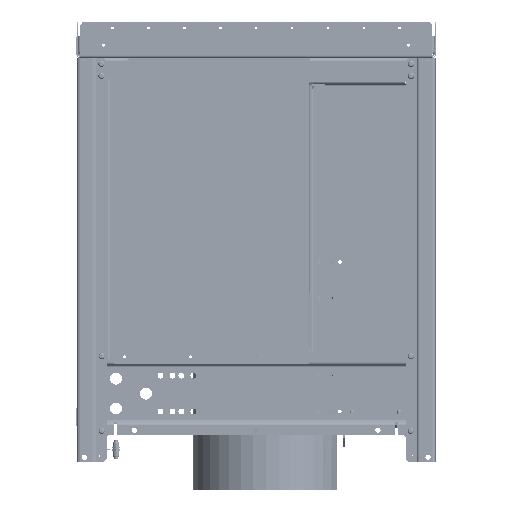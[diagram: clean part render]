
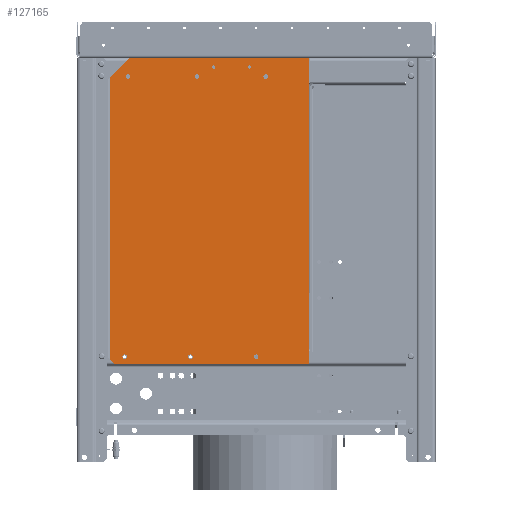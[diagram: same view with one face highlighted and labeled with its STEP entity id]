
A CAD part, left-side view. The second image highlights one B-rep face of the part: STEP entity #127165.
In plain terms, the highlighted planar face has unit normal (-1, 0, 0) as drawn and (0, 0, -1) by its records, which use the part's own axes.
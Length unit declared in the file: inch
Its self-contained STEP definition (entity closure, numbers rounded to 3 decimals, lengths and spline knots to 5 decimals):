
#126268=CARTESIAN_POINT('',(-11.25,17.34,-0.0396));
#126269=DIRECTION('',(0.,0.,-1.));
#126270=DIRECTION('',(-1.,0.,0.));
#126271=AXIS2_PLACEMENT_3D('',#126268,#126269,#126270);
#126273=CARTESIAN_POINT('',(-11.25,17.34,-0.0396));
#126274=DIRECTION('',(0.,0.,-1.));
#126275=DIRECTION('',(1.,0.,0.));
#126276=AXIS2_PLACEMENT_3D('',#126273,#126274,#126275);
#126278=CARTESIAN_POINT('',(-11.25,11.59,-0.0396));
#126279=DIRECTION('',(0.,0.,-1.));
#126280=DIRECTION('',(-1.,0.,0.));
#126281=AXIS2_PLACEMENT_3D('',#126278,#126279,#126280);
#126283=CARTESIAN_POINT('',(-11.25,11.59,-0.0396));
#126284=DIRECTION('',(0.,0.,-1.));
#126285=DIRECTION('',(1.,0.,0.));
#126286=AXIS2_PLACEMENT_3D('',#126283,#126284,#126285);
#126288=CARTESIAN_POINT('',(-11.25,5.84,-0.0396));
#126289=DIRECTION('',(0.,0.,-1.));
#126290=DIRECTION('',(-1.,0.,0.));
#126291=AXIS2_PLACEMENT_3D('',#126288,#126289,#126290);
#126293=CARTESIAN_POINT('',(-11.25,5.84,-0.0396));
#126294=DIRECTION('',(0.,0.,-1.));
#126295=DIRECTION('',(1.,0.,0.));
#126296=AXIS2_PLACEMENT_3D('',#126293,#126294,#126295);
#126298=CARTESIAN_POINT('',(12.18,17.63,-0.0396));
#126299=DIRECTION('',(0.,0.,-1.));
#126300=DIRECTION('',(-1.,0.,0.));
#126301=AXIS2_PLACEMENT_3D('',#126298,#126299,#126300);
#126303=CARTESIAN_POINT('',(12.18,17.63,-0.0396));
#126304=DIRECTION('',(0.,0.,-1.));
#126305=DIRECTION('',(1.,0.,0.));
#126306=AXIS2_PLACEMENT_3D('',#126303,#126304,#126305);
#126308=CARTESIAN_POINT('',(12.18,12.13,-0.0396));
#126309=DIRECTION('',(0.,0.,-1.));
#126310=DIRECTION('',(-1.,0.,0.));
#126311=AXIS2_PLACEMENT_3D('',#126308,#126309,#126310);
#126313=CARTESIAN_POINT('',(12.18,12.13,-0.0396));
#126314=DIRECTION('',(0.,0.,-1.));
#126315=DIRECTION('',(1.,0.,0.));
#126316=AXIS2_PLACEMENT_3D('',#126313,#126314,#126315);
#126318=CARTESIAN_POINT('',(12.18,6.63,-0.0396));
#126319=DIRECTION('',(0.,0.,-1.));
#126320=DIRECTION('',(-1.,0.,0.));
#126321=AXIS2_PLACEMENT_3D('',#126318,#126319,#126320);
#126323=CARTESIAN_POINT('',(12.18,6.63,-0.0396));
#126324=DIRECTION('',(0.,0.,-1.));
#126325=DIRECTION('',(1.,0.,0.));
#126326=AXIS2_PLACEMENT_3D('',#126323,#126324,#126325);
#126328=CARTESIAN_POINT('',(-12.04,10.1792,-0.0396));
#126329=DIRECTION('',(0.,0.,1.));
#126330=DIRECTION('',(-1.,0.,0.));
#126331=AXIS2_PLACEMENT_3D('',#126328,#126329,#126330);
#126333=CARTESIAN_POINT('',(-12.04,10.1792,-0.0396));
#126334=DIRECTION('',(0.,0.,1.));
#126335=DIRECTION('',(1.,0.,0.));
#126336=AXIS2_PLACEMENT_3D('',#126333,#126334,#126335);
#126338=CARTESIAN_POINT('',(-12.04,7.1792,-0.0396));
#126339=DIRECTION('',(0.,0.,1.));
#126340=DIRECTION('',(-1.,0.,0.));
#126341=AXIS2_PLACEMENT_3D('',#126338,#126339,#126340);
#126343=CARTESIAN_POINT('',(-12.04,7.1792,-0.0396));
#126344=DIRECTION('',(0.,0.,1.));
#126345=DIRECTION('',(1.,0.,0.));
#126346=AXIS2_PLACEMENT_3D('',#126343,#126344,#126345);
#126348=DIRECTION('',(-0.707,-0.707,0.));
#126349=VECTOR('',#126348,2.35834);
#126350=CARTESIAN_POINT('',(-11.1124,18.8904,-0.0396));
#126351=LINE('',#126350,#126349);
#126352=DIRECTION('',(0.,-1.,0.));
#126353=VECTOR('',#126352,14.9836);
#126354=CARTESIAN_POINT('',(-12.78,17.2228,-0.0396));
#126355=LINE('',#126354,#126353);
#126356=DIRECTION('',(1.,0.,0.));
#126357=VECTOR('',#126356,2.2);
#126358=CARTESIAN_POINT('',(-12.78,2.2392,-0.0396));
#126359=LINE('',#126358,#126357);
#126360=DIRECTION('',(-1.,0.,0.));
#126361=VECTOR('',#126360,1.25);
#126362=CARTESIAN_POINT('',(12.78,2.2392,-0.0396));
#126363=LINE('',#126362,#126361);
#126364=DIRECTION('',(0.,1.,0.));
#126365=VECTOR('',#126364,16.2336);
#126366=CARTESIAN_POINT('',(12.78,2.2392,-0.0396));
#126367=LINE('',#126366,#126365);
#126368=DIRECTION('',(0.707,-0.707,0.));
#126369=VECTOR('',#126368,0.59058);
#126370=CARTESIAN_POINT('',(12.3624,18.8904,-0.0396));
#126371=LINE('',#126370,#126369);
#126659=DIRECTION('',(-1.,0.,0.));
#126660=VECTOR('',#126659,23.4748);
#126661=CARTESIAN_POINT('',(12.3624,18.8904,-0.0396));
#126662=LINE('',#126661,#126660);
#126811=DIRECTION('',(1.,0.,0.));
#126812=VECTOR('',#126811,22.11);
#126813=CARTESIAN_POINT('',(-10.58,2.2392,-0.0396));
#126814=LINE('',#126813,#126812);
#126824=CARTESIAN_POINT('',(-11.44,17.34,-0.0396));
#126825=CARTESIAN_POINT('',(-11.06,17.34,-0.0396));
#126826=VERTEX_POINT('',#126824);
#126827=VERTEX_POINT('',#126825);
#126832=CARTESIAN_POINT('',(-11.44,11.59,-0.0396));
#126833=CARTESIAN_POINT('',(-11.06,11.59,-0.0396));
#126834=VERTEX_POINT('',#126832);
#126835=VERTEX_POINT('',#126833);
#126840=CARTESIAN_POINT('',(-11.44,5.84,-0.0396));
#126841=CARTESIAN_POINT('',(-11.06,5.84,-0.0396));
#126842=VERTEX_POINT('',#126840);
#126843=VERTEX_POINT('',#126841);
#126848=CARTESIAN_POINT('',(11.99,17.63,-0.0396));
#126849=CARTESIAN_POINT('',(12.37,17.63,-0.0396));
#126850=VERTEX_POINT('',#126848);
#126851=VERTEX_POINT('',#126849);
#126856=CARTESIAN_POINT('',(11.99,12.13,-0.0396));
#126857=CARTESIAN_POINT('',(12.37,12.13,-0.0396));
#126858=VERTEX_POINT('',#126856);
#126859=VERTEX_POINT('',#126857);
#126864=CARTESIAN_POINT('',(11.99,6.63,-0.0396));
#126865=CARTESIAN_POINT('',(12.37,6.63,-0.0396));
#126866=VERTEX_POINT('',#126864);
#126867=VERTEX_POINT('',#126865);
#126912=CARTESIAN_POINT('',(-12.78,2.2392,-0.0396));
#126913=CARTESIAN_POINT('',(-10.58,2.2392,-0.0396));
#126914=VERTEX_POINT('',#126912);
#126915=VERTEX_POINT('',#126913);
#126916=CARTESIAN_POINT('',(12.78,2.2392,-0.0396));
#126917=CARTESIAN_POINT('',(11.53,2.2392,-0.0396));
#126918=VERTEX_POINT('',#126916);
#126919=VERTEX_POINT('',#126917);
#126936=CARTESIAN_POINT('',(-12.18,10.1792,-0.0396));
#126937=CARTESIAN_POINT('',(-11.9,10.1792,-0.0396));
#126938=VERTEX_POINT('',#126936);
#126939=VERTEX_POINT('',#126937);
#126944=CARTESIAN_POINT('',(-12.18,7.1792,-0.0396));
#126945=CARTESIAN_POINT('',(-11.9,7.1792,-0.0396));
#126946=VERTEX_POINT('',#126944);
#126947=VERTEX_POINT('',#126945);
#126972=CARTESIAN_POINT('',(-11.1124,18.8904,-0.0396));
#126973=CARTESIAN_POINT('',(-12.78,17.2228,-0.0396));
#126974=VERTEX_POINT('',#126972);
#126975=VERTEX_POINT('',#126973);
#126976=CARTESIAN_POINT('',(12.3624,18.8904,-0.0396));
#126977=CARTESIAN_POINT('',(12.78,18.4728,-0.0396));
#126978=VERTEX_POINT('',#126976);
#126979=VERTEX_POINT('',#126977);
#127096=CARTESIAN_POINT('',(0.,0.,-0.0396));
#127097=DIRECTION('',(0.,0.,1.));
#127098=DIRECTION('',(1.,0.,0.));
#127099=AXIS2_PLACEMENT_3D('',#127096,#127097,#127098);
#127100=PLANE('',#127099);
#127102=ORIENTED_EDGE('',*,*,#127101,.T.);
#127104=ORIENTED_EDGE('',*,*,#127103,.T.);
#127106=ORIENTED_EDGE('',*,*,#127105,.T.);
#127108=ORIENTED_EDGE('',*,*,#127107,.T.);
#127110=ORIENTED_EDGE('',*,*,#127109,.F.);
#127112=ORIENTED_EDGE('',*,*,#127111,.T.);
#127114=ORIENTED_EDGE('',*,*,#127113,.F.);
#127116=ORIENTED_EDGE('',*,*,#127115,.T.);
#127117=EDGE_LOOP('',(#127102,#127104,#127106,#127108,#127110,#127112,#127114,
#127116));
#127118=FACE_OUTER_BOUND('',#127117,.F.);
#127119=ORIENTED_EDGE('',*,*,#127076,.T.);
#127120=ORIENTED_EDGE('',*,*,#127090,.T.);
#127121=EDGE_LOOP('',(#127119,#127120));
#127122=FACE_BOUND('',#127121,.F.);
#127124=ORIENTED_EDGE('',*,*,#127123,.T.);
#127126=ORIENTED_EDGE('',*,*,#127125,.T.);
#127127=EDGE_LOOP('',(#127124,#127126));
#127128=FACE_BOUND('',#127127,.F.);
#127130=ORIENTED_EDGE('',*,*,#127129,.T.);
#127132=ORIENTED_EDGE('',*,*,#127131,.T.);
#127133=EDGE_LOOP('',(#127130,#127132));
#127134=FACE_BOUND('',#127133,.F.);
#127136=ORIENTED_EDGE('',*,*,#127135,.T.);
#127138=ORIENTED_EDGE('',*,*,#127137,.T.);
#127139=EDGE_LOOP('',(#127136,#127138));
#127140=FACE_BOUND('',#127139,.F.);
#127142=ORIENTED_EDGE('',*,*,#127141,.T.);
#127144=ORIENTED_EDGE('',*,*,#127143,.T.);
#127145=EDGE_LOOP('',(#127142,#127144));
#127146=FACE_BOUND('',#127145,.F.);
#127148=ORIENTED_EDGE('',*,*,#127147,.T.);
#127150=ORIENTED_EDGE('',*,*,#127149,.T.);
#127151=EDGE_LOOP('',(#127148,#127150));
#127152=FACE_BOUND('',#127151,.F.);
#127154=ORIENTED_EDGE('',*,*,#127153,.F.);
#127156=ORIENTED_EDGE('',*,*,#127155,.F.);
#127157=EDGE_LOOP('',(#127154,#127156));
#127158=FACE_BOUND('',#127157,.F.);
#127160=ORIENTED_EDGE('',*,*,#127159,.F.);
#127162=ORIENTED_EDGE('',*,*,#127161,.F.);
#127163=EDGE_LOOP('',(#127160,#127162));
#127164=FACE_BOUND('',#127163,.F.);
#127165=ADVANCED_FACE('',(#127118,#127122,#127128,#127134,#127140,#127146,
#127152,#127158,#127164),#127100,.F.);
#126272=CIRCLE('',#126271,0.19);
#126277=CIRCLE('',#126276,0.19);
#126282=CIRCLE('',#126281,0.19);
#126287=CIRCLE('',#126286,0.19);
#126292=CIRCLE('',#126291,0.19);
#126297=CIRCLE('',#126296,0.19);
#126302=CIRCLE('',#126301,0.19);
#126307=CIRCLE('',#126306,0.19);
#126312=CIRCLE('',#126311,0.19);
#126317=CIRCLE('',#126316,0.19);
#126322=CIRCLE('',#126321,0.19);
#126327=CIRCLE('',#126326,0.19);
#126332=CIRCLE('',#126331,0.14);
#126337=CIRCLE('',#126336,0.14);
#126342=CIRCLE('',#126341,0.14);
#126347=CIRCLE('',#126346,0.14);
#127076=EDGE_CURVE('',#126826,#126827,#126272,.T.);
#127090=EDGE_CURVE('',#126827,#126826,#126277,.T.);
#127101=EDGE_CURVE('',#126974,#126975,#126351,.T.);
#127103=EDGE_CURVE('',#126975,#126914,#126355,.T.);
#127105=EDGE_CURVE('',#126914,#126915,#126359,.T.);
#127107=EDGE_CURVE('',#126915,#126919,#126814,.T.);
#127109=EDGE_CURVE('',#126918,#126919,#126363,.T.);
#127111=EDGE_CURVE('',#126918,#126979,#126367,.T.);
#127113=EDGE_CURVE('',#126978,#126979,#126371,.T.);
#127115=EDGE_CURVE('',#126978,#126974,#126662,.T.);
#127123=EDGE_CURVE('',#126834,#126835,#126282,.T.);
#127125=EDGE_CURVE('',#126835,#126834,#126287,.T.);
#127129=EDGE_CURVE('',#126842,#126843,#126292,.T.);
#127131=EDGE_CURVE('',#126843,#126842,#126297,.T.);
#127135=EDGE_CURVE('',#126850,#126851,#126302,.T.);
#127137=EDGE_CURVE('',#126851,#126850,#126307,.T.);
#127141=EDGE_CURVE('',#126858,#126859,#126312,.T.);
#127143=EDGE_CURVE('',#126859,#126858,#126317,.T.);
#127147=EDGE_CURVE('',#126866,#126867,#126322,.T.);
#127149=EDGE_CURVE('',#126867,#126866,#126327,.T.);
#127153=EDGE_CURVE('',#126938,#126939,#126332,.T.);
#127155=EDGE_CURVE('',#126939,#126938,#126337,.T.);
#127159=EDGE_CURVE('',#126946,#126947,#126342,.T.);
#127161=EDGE_CURVE('',#126947,#126946,#126347,.T.);
